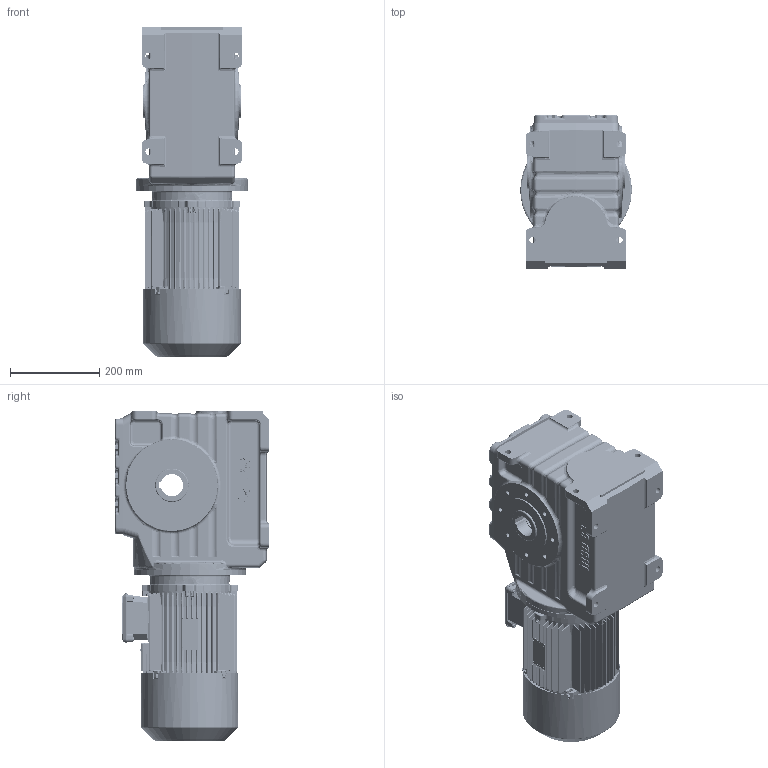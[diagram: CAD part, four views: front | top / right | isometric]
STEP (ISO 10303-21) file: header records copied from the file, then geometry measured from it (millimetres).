
FILE_DESCRIPTION (( 'STEP AP203' ), '1' );
FILE_NAME ('IRSDM 83-112 M.step', '2023-11-17T17:15:34', ( '' ), ( '' ), 'SwSTEP 2.0', 'SolidWorks 2022', '' );
FILE_SCHEMA (( 'CONFIG_CONTROL_DESIGN' ));
Products named in the file (5): IRSDM 83-112 M; Şase_Ø250; IRSD 83-_IRSD 83; 4kW_112_M_B9 - Standart; MBK 112 IE3 GMK İR83, İRK93, YP93, V81, İRC83, İRSD83
Assembly tree (4 placements, depth 2):
  IRSDM 83-112 M
    Şase_Ø250
    IRSD 83-_IRSD 83
    MBK 112 IE3 GMK İR83, İRK93, YP93, V81, İRC83, İRSD83
    4kW_112_M_B9 - Standart
Bounding box: 250 x 344 x 739 mm (x, y, z)
Volume: 34243477.3 mm3; surface area: 1506132.1 mm2
Topology: 4 solids, 15 shells, 10745 faces, 28442 edges, 17864 vertices
Faces by surface type: plane 5269, bspline 3069, cylinder 1599, cone 419, torus 235, sphere 154
Entity records: 428366 total; most frequent: CARTESIAN_POINT 184587, ORIENTED_EDGE 56610, DIRECTION 41737, EDGE_CURVE 28305, VERTEX_POINT 17859, LINE 16781, VECTOR 16781, AXIS2_PLACEMENT_3D 12478
